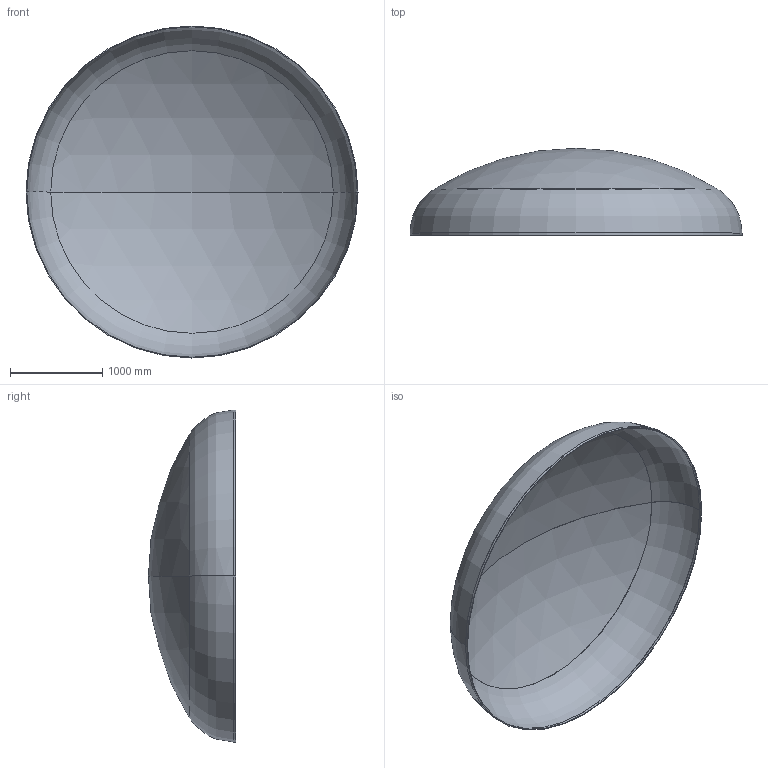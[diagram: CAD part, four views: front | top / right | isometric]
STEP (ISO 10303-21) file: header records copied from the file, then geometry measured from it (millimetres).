
FILE_DESCRIPTION (( 'STEP AP203' ), '1' );
FILE_NAME ('DIN 28013 Korbbogenform_-_Boden DIN 28013 - 3600 x 25 - I - s=8.step', '2016-07-01T20:03:09', ( '' ), ( '' ), 'SwSTEP 2.0', 'SolidWorks 2013', '' );
FILE_SCHEMA (( 'CONFIG_CONTROL_DESIGN' ));
Length unit declared in the file: millimetre
Products named in the file (1): DIN 28013 Korbbogenform_-_Boden DIN 28013 - 3600 x 25 - I - s=8
Bounding box: 3600 x 944.38 x 3600 mm (x, y, z)
Volume: 114738906.4 mm3; surface area: 28775125.6 mm2
Topology: 1 solids, 1 shells, 13 faces, 24 edges, 14 vertices
Faces by surface type: torus 4, cylinder 4, sphere 4, plane 1
Entity records: 407 total; most frequent: DIRECTION 72, CARTESIAN_POINT 52, ORIENTED_EDGE 48, AXIS2_PLACEMENT_3D 34, EDGE_CURVE 24, CIRCLE 20, VERTEX_POINT 14, EDGE_LOOP 14
